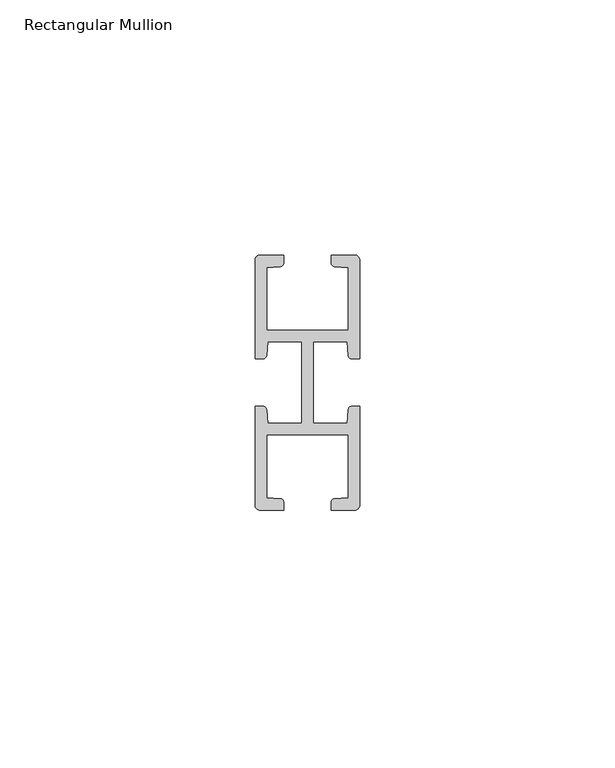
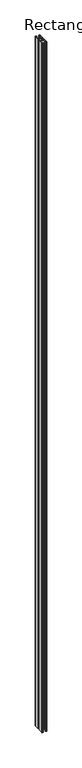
"""IFC4 building model written with IfcOpenShell, lengths in millimetres: member geometry, Rectangular Mullion : RSen_21_CWM_support profile - 21x50 Multi - left_duco projects."""

from ifc_helpers import new_model, si_unit, frame, origin, place, context, project, spatial, circle_curve, source, transform, mapped, element, save
from ifc_brep_helpers import plane_surface, cylinder_surface, advanced_brep


def rectangular_mullion_bf4a34f8(model_context):
    return source(origin(), model_context, "Body", "AdvancedBrep", [
        advanced_brep(
        [(-50.0, -28.65, 0.0), (-51.5472394, -28.65, 0.0), (-52.2455343, -29.3011705, 0.0), (-52.4342548, -32.0, 0.0), (-59.125, -32.0, 0.0), (-59.125, -16.0, 0.0), (-52.4342548, -16.0, 0.0), (-52.2455343, -18.6988295, 0.0), (-51.5472394, -19.35, 0.0), (-50.0, -19.35, 0.0), (-50.0, 0.0, 0.0), (-51.0, 1.0, 0.0), (-55.6, 1.0, 0.0), (-55.6, -0.5472394, 0.0), (-54.9488295, -1.2455343, 0.0), (-52.25, -1.4387205, 0.0), (-52.25, -13.75, 0.0), (-68.25, -13.75, 0.0), (-68.25, -1.4387205, 0.0), (-65.5508597, -1.2499783, 0.0), (-64.9, -0.5472394, 0.0), (-64.9, 1.0, 0.0), (-69.5, 1.0, 0.0), (-70.5, 0.0, 0.0), (-70.5, -19.35, 0.0), (-68.9527606, -19.35, 0.0), (-68.2544657, -18.6988295, 0.0), (-68.0657452, -16.0, 0.0), (-61.375, -16.0, 0.0), (-61.375, -32.0, 0.0), (-68.0657452, -32.0, 0.0), (-68.2544657, -29.3011705, 0.0), (-68.9527606, -28.65, 0.0), (-70.5, -28.65, 0.0), (-70.5, -48.0, 0.0), (-69.5, -49.0, 0.0), (-64.9, -49.0, 0.0), (-64.9, -47.4527606, 0.0), (-65.5511705, -46.7544657, 0.0), (-68.25, -46.5612795, 0.0), (-68.25, -34.25, 0.0), (-52.25, -34.25, 0.0), (-52.25, -46.5612795, 0.0), (-54.9488295, -46.75, 0.0), (-55.6, -47.4527606, 0.0), (-55.6, -49.0, 0.0), (-51.0, -49.0, 0.0), (-50.0, -48.0, 0.0), (-50.0, -28.65, -3000.0), (-50.0, -48.0, -3000.0), (-51.0, -49.0, -3000.0), (-55.6, -49.0, -3000.0), (-55.6, -47.4527606, -3000.0), (-54.9488295, -46.7544657, -3000.0), (-52.25, -46.5612795, -3000.0), (-52.25, -34.25, -3000.0), (-68.25, -34.25, -3000.0), (-68.25, -46.5612795, -3000.0), (-65.5511705, -46.75, -3000.0), (-64.9, -47.4527606, -3000.0), (-64.9, -49.0, -3000.0), (-69.5, -49.0, -3000.0), (-70.5, -48.0, -3000.0), (-70.5, -28.65, -3000.0), (-68.9527606, -28.65, -3000.0), (-68.2544657, -29.3011705, -3000.0), (-68.0657452, -32.0, -3000.0), (-61.375, -32.0, -3000.0), (-61.375, -16.0, -3000.0), (-68.0657452, -16.0, -3000.0), (-68.2544657, -18.6988295, -3000.0), (-68.9527606, -19.35, -3000.0), (-70.5, -19.35, -3000.0), (-70.5, 0.0, -3000.0), (-69.5, 1.0, -3000.0), (-64.9, 1.0, -3000.0), (-64.9, -0.5472394, -3000.0), (-65.5511705, -1.2455343, -3000.0), (-68.25, -1.4387205, -3000.0), (-68.25, -13.75, -3000.0), (-52.25, -13.75, -3000.0), (-52.25, -1.4387205, -3000.0), (-54.9491403, -1.2499783, -3000.0), (-55.6, -0.5472394, -3000.0), (-55.6, 1.0, -3000.0), (-51.0, 1.0, -3000.0), (-50.0, 0.0, -3000.0), (-50.0, -19.35, -3000.0), (-51.5472394, -19.35, -3000.0), (-52.2455343, -18.6988295, -3000.0), (-52.4342548, -16.0, -3000.0), (-59.125, -16.0, -3000.0), (-59.125, -32.0, -3000.0), (-52.4342548, -32.0, -3000.0), (-52.2455343, -29.3011705, -3000.0), (-51.5472394, -28.65, -3000.0)],
        [
            (0, 1),
            (1, 2, circle_curve(frame((-51.5472394, -29.35, 0.0), z_axis=(0.0, 0.0, 1.0), x_axis=(1.0, 0.0, 0.0)), 0.7)),
            (2, 3),
            (3, 4),
            (4, 5),
            (5, 6),
            (6, 7),
            (7, 8, circle_curve(frame((-51.5472394, -18.65, 0.0), z_axis=(0.0, 0.0, 1.0), x_axis=(1.0, 0.0, 0.0)), 0.7)),
            (8, 9),
            (9, 10),
            (10, 11, circle_curve(frame((-51.0, 0.0, 0.0), z_axis=(0.0, 0.0, 1.0), x_axis=(1.0, 0.0, 0.0)), 1.0)),
            (11, 12),
            (12, 13),
            (13, 14, circle_curve(frame((-54.9, -0.5472394, 0.0), z_axis=(0.0, 0.0, 1.0), x_axis=(1.0, 0.0, 0.0)), 0.7)),
            (14, 15),
            (15, 16),
            (16, 17),
            (17, 18),
            (18, 19),
            (19, 20, circle_curve(frame((-65.6, -0.5472394, 0.0), z_axis=(0.0, 0.0, 1.0), x_axis=(1.0, 0.0, 0.0)), 0.7)),
            (20, 21),
            (21, 22),
            (22, 23, circle_curve(frame((-69.5, 0.0, 0.0), z_axis=(0.0, 0.0, 1.0), x_axis=(1.0, 0.0, 0.0)), 1.0)),
            (23, 24),
            (24, 25),
            (25, 26, circle_curve(frame((-68.9527606, -18.65, 0.0), z_axis=(0.0, 0.0, 1.0), x_axis=(1.0, 0.0, 0.0)), 0.7)),
            (26, 27),
            (27, 28),
            (28, 29),
            (29, 30),
            (30, 31),
            (31, 32, circle_curve(frame((-68.9527606, -29.35, 0.0), z_axis=(0.0, 0.0, 1.0), x_axis=(1.0, 0.0, 0.0)), 0.7)),
            (32, 33),
            (33, 34),
            (34, 35, circle_curve(frame((-69.5, -48.0, 0.0), z_axis=(0.0, 0.0, 1.0), x_axis=(1.0, 0.0, 0.0)), 1.0)),
            (35, 36),
            (36, 37),
            (37, 38, circle_curve(frame((-65.6, -47.4527606, 0.0), z_axis=(0.0, 0.0, 1.0), x_axis=(1.0, 0.0, 0.0)), 0.7)),
            (38, 39),
            (39, 40),
            (40, 41),
            (41, 42),
            (42, 43),
            (43, 44, circle_curve(frame((-54.9, -47.4527606, 0.0), z_axis=(0.0, 0.0, 1.0), x_axis=(1.0, 0.0, 0.0)), 0.7)),
            (44, 45),
            (45, 46),
            (46, 47, circle_curve(frame((-51.0, -48.0, 0.0), z_axis=(0.0, 0.0, 1.0), x_axis=(1.0, 0.0, 0.0)), 1.0)),
            (47, 0),
            (48, 49),
            (49, 50, circle_curve(frame((-51.0, -48.0, -3000.0), z_axis=(0.0, 0.0, -1.0), x_axis=(1.0, 0.0, 0.0)), 1.0)),
            (50, 51),
            (51, 52),
            (52, 53, circle_curve(frame((-54.9, -47.4527606, -3000.0), z_axis=(0.0, 0.0, -1.0), x_axis=(1.0, 0.0, 0.0)), 0.7)),
            (53, 54),
            (54, 55),
            (55, 56),
            (56, 57),
            (57, 58),
            (58, 59, circle_curve(frame((-65.6, -47.4527606, -3000.0), z_axis=(0.0, 0.0, -1.0), x_axis=(1.0, 0.0, 0.0)), 0.7)),
            (59, 60),
            (60, 61),
            (61, 62, circle_curve(frame((-69.5, -48.0, -3000.0), z_axis=(0.0, 0.0, -1.0), x_axis=(1.0, 0.0, 0.0)), 1.0)),
            (62, 63),
            (63, 64),
            (64, 65, circle_curve(frame((-68.9527606, -29.35, -3000.0), z_axis=(0.0, 0.0, -1.0), x_axis=(1.0, 0.0, 0.0)), 0.7)),
            (65, 66),
            (66, 67),
            (67, 68),
            (68, 69),
            (69, 70),
            (70, 71, circle_curve(frame((-68.9527606, -18.65, -3000.0), z_axis=(0.0, 0.0, -1.0), x_axis=(1.0, 0.0, 0.0)), 0.7)),
            (71, 72),
            (72, 73),
            (73, 74, circle_curve(frame((-69.5, 0.0, -3000.0), z_axis=(0.0, 0.0, -1.0), x_axis=(1.0, 0.0, 0.0)), 1.0)),
            (74, 75),
            (75, 76),
            (76, 77, circle_curve(frame((-65.6, -0.5472394, -3000.0), z_axis=(0.0, 0.0, -1.0), x_axis=(1.0, 0.0, 0.0)), 0.7)),
            (77, 78),
            (78, 79),
            (79, 80),
            (80, 81),
            (81, 82),
            (82, 83, circle_curve(frame((-54.9, -0.5472394, -3000.0), z_axis=(0.0, 0.0, -1.0), x_axis=(1.0, 0.0, 0.0)), 0.7)),
            (83, 84),
            (84, 85),
            (85, 86, circle_curve(frame((-51.0, 0.0, -3000.0), z_axis=(0.0, 0.0, -1.0), x_axis=(1.0, 0.0, 0.0)), 1.0)),
            (86, 87),
            (87, 88),
            (88, 89, circle_curve(frame((-51.5472394, -18.65, -3000.0), z_axis=(0.0, 0.0, -1.0), x_axis=(1.0, 0.0, 0.0)), 0.7)),
            (89, 90),
            (90, 91),
            (91, 92),
            (92, 93),
            (93, 94),
            (94, 95, circle_curve(frame((-51.5472394, -29.35, -3000.0), z_axis=(0.0, 0.0, -1.0), x_axis=(1.0, 0.0, 0.0)), 0.7)),
            (95, 48),
            (33, 63),
            (62, 34),
            (47, 49),
            (48, 0),
            (95, 1),
            (94, 2),
            (93, 3),
            (92, 4),
            (91, 5),
            (90, 6),
            (89, 7),
            (88, 8),
            (87, 9),
            (86, 10),
            (85, 11),
            (84, 12),
            (83, 13),
            (82, 14),
            (81, 15),
            (80, 16),
            (79, 17),
            (78, 18),
            (77, 19),
            (76, 20),
            (75, 21),
            (74, 22),
            (73, 23),
            (72, 24),
            (71, 25),
            (70, 26),
            (69, 27),
            (68, 28),
            (67, 29),
            (66, 30),
            (65, 31),
            (64, 32),
            (61, 35),
            (60, 36),
            (59, 37),
            (58, 38),
            (57, 39),
            (56, 40),
            (55, 41),
            (54, 42),
            (53, 43),
            (52, 44),
            (51, 45),
            (50, 46),
        ],
        [
            plane_surface(frame((0.0, -85.4483475, 0.0), z_axis=(0.0, 0.0, 1.0), x_axis=(-1.0, 0.0, 0.0))),
            plane_surface(frame((0.0, -85.4483475, -3000.0), z_axis=(0.0, 0.0, -1.0), x_axis=(-1.0, 0.0, 0.0))),
            plane_surface(frame((-70.5, -28.65, 0.0), z_axis=(-1.0, 0.0, 0.0), x_axis=(0.0, 0.0, -1.0))),
            plane_surface(frame((-50.0, -48.0, 0.0), z_axis=(1.0, 0.0, 0.0), x_axis=(0.0, 0.0, -1.0))),
            plane_surface(frame((-50.0, -28.65, 0.0), z_axis=(0.0, 1.0, 0.0), x_axis=(0.0, 0.0, -1.0))),
            cylinder_surface(frame((-51.5472394, -29.35, 0.0), z_axis=(0.0, 0.0, 1.0), x_axis=(1.0, 0.0, 0.0)), 0.7),
            plane_surface(frame((-52.2455343, -29.3011705, 0.0), z_axis=(-0.9975640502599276, 0.06975647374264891, 0.0), x_axis=(0.0, 0.0, -1.0))),
            plane_surface(frame((-52.4342548, -32.0, 0.0), z_axis=(0.0, 1.0, 0.0), x_axis=(0.0, 0.0, -1.0))),
            plane_surface(frame((-59.125, -32.0, 0.0), z_axis=(1.0, 0.0, 0.0), x_axis=(0.0, 0.0, -1.0))),
            plane_surface(frame((-59.125, -16.0, 0.0), z_axis=(0.0, -1.0, 0.0), x_axis=(0.0, 0.0, -1.0))),
            plane_surface(frame((-52.4342548, -16.0, 0.0), z_axis=(-0.9975640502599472, -0.06975647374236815, 0.0), x_axis=(0.0, 0.0, -1.0))),
            cylinder_surface(frame((-51.5472394, -18.65, 0.0), z_axis=(0.0, 0.0, 1.0), x_axis=(1.0, 0.0, 0.0)), 0.7),
            plane_surface(frame((-51.5472394, -19.35, 0.0), z_axis=(0.0, -1.0, 0.0), x_axis=(0.0, 0.0, -1.0))),
            plane_surface(frame((-50.0, -19.35, 0.0), z_axis=(1.0, 0.0, 0.0), x_axis=(0.0, 0.0, -1.0))),
            cylinder_surface(frame((-51.0, 0.0, 0.0), z_axis=(0.0, 0.0, 1.0), x_axis=(1.0, 0.0, 0.0)), 1.0),
            plane_surface(frame((-51.0, 1.0, 0.0), z_axis=(0.0, 1.0, 0.0), x_axis=(0.0, 0.0, -1.0))),
            plane_surface(frame((-55.6, 1.0, 0.0), z_axis=(-1.0, 0.0, 0.0), x_axis=(0.0, 0.0, -1.0))),
            cylinder_surface(frame((-54.9, -0.5472394, 0.0), z_axis=(0.0, 0.0, 1.0), x_axis=(1.0, 0.0, 0.0)), 0.7),
            plane_surface(frame((-54.9491403, -1.2499783, 0.0), z_axis=(-0.0697564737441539, -0.9975640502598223, 0.0), x_axis=(0.0, 0.0, -1.0))),
            plane_surface(frame((-52.25, -1.4387205, 0.0), z_axis=(-1.0, 0.0, 0.0), x_axis=(0.0, 0.0, -1.0))),
            plane_surface(frame((-52.25, -13.75, 0.0), z_axis=(0.0, 1.0, 0.0), x_axis=(0.0, 0.0, -1.0))),
            plane_surface(frame((-68.25, -13.75, 0.0), z_axis=(1.0, 0.0, 0.0), x_axis=(0.0, 0.0, -1.0))),
            plane_surface(frame((-68.25, -1.4387205, 0.0), z_axis=(0.06975647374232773, -0.9975640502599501, 0.0), x_axis=(0.0, 0.0, -1.0))),
            cylinder_surface(frame((-65.6, -0.5472394, 0.0), z_axis=(0.0, 0.0, 1.0), x_axis=(1.0, 0.0, 0.0)), 0.7),
            plane_surface(frame((-64.9, -0.5472394, 0.0), z_axis=(1.0, 0.0, 0.0), x_axis=(0.0, 0.0, -1.0))),
            plane_surface(frame((-64.9, 1.0, 0.0), z_axis=(0.0, 1.0, 0.0), x_axis=(0.0, 0.0, -1.0))),
            cylinder_surface(frame((-69.5, 0.0, 0.0), z_axis=(0.0, 0.0, 1.0), x_axis=(1.0, 0.0, 0.0)), 1.0),
            plane_surface(frame((-70.5, 0.0, 0.0), z_axis=(-1.0, 0.0, 0.0), x_axis=(0.0, 0.0, -1.0))),
            plane_surface(frame((-70.5, -19.35, 0.0), z_axis=(0.0, -1.0, 0.0), x_axis=(0.0, 0.0, -1.0))),
            cylinder_surface(frame((-68.9527606, -18.65, 0.0), z_axis=(0.0, 0.0, 1.0), x_axis=(1.0, 0.0, 0.0)), 0.7),
            plane_surface(frame((-68.2544657, -18.6988295, 0.0), z_axis=(0.9975640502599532, -0.06975647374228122, 0.0), x_axis=(0.0, 0.0, -1.0))),
            plane_surface(frame((-68.0657452, -16.0, 0.0), z_axis=(0.0, -1.0, 0.0), x_axis=(0.0, 0.0, -1.0))),
            plane_surface(frame((-61.375, -16.0, 0.0), z_axis=(-1.0, 0.0, 0.0), x_axis=(0.0, 0.0, -1.0))),
            plane_surface(frame((-61.375, -32.0, 0.0), z_axis=(0.0, 1.0, 0.0), x_axis=(0.0, 0.0, -1.0))),
            plane_surface(frame((-68.0657452, -32.0, 0.0), z_axis=(0.9975640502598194, 0.06975647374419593, 0.0), x_axis=(0.0, 0.0, -1.0))),
            cylinder_surface(frame((-68.9527606, -29.35, 0.0), z_axis=(0.0, 0.0, 1.0), x_axis=(1.0, 0.0, 0.0)), 0.7),
            plane_surface(frame((-68.9527606, -28.65, 0.0), z_axis=(0.0, 1.0, 0.0), x_axis=(0.0, 0.0, -1.0))),
            cylinder_surface(frame((-69.5, -48.0, 0.0), z_axis=(0.0, 0.0, 1.0), x_axis=(1.0, 0.0, 0.0)), 1.0),
            plane_surface(frame((-69.5, -49.0, 0.0), z_axis=(0.0, -1.0, 0.0), x_axis=(0.0, 0.0, -1.0))),
            plane_surface(frame((-64.9, -49.0, 0.0), z_axis=(1.0, 0.0, 0.0), x_axis=(0.0, 0.0, -1.0))),
            cylinder_surface(frame((-65.6, -47.4527606, 0.0), z_axis=(0.0, 0.0, 1.0), x_axis=(1.0, 0.0, 0.0)), 0.7),
            plane_surface(frame((-65.5511705, -46.75, 0.0), z_axis=(0.06975647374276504, 0.9975640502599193, 0.0), x_axis=(0.0, 0.0, -1.0))),
            plane_surface(frame((-68.25, -46.5612795, 0.0), z_axis=(1.0, 0.0, 0.0), x_axis=(0.0, 0.0, -1.0))),
            plane_surface(frame((-68.25, -34.25, 0.0), z_axis=(0.0, -1.0, 0.0), x_axis=(0.0, 0.0, -1.0))),
            plane_surface(frame((-52.25, -34.25, 0.0), z_axis=(-1.0, 0.0, 0.0), x_axis=(0.0, 0.0, -1.0))),
            plane_surface(frame((-52.25, -46.5612795, 0.0), z_axis=(-0.06975647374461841, 0.9975640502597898, 0.0), x_axis=(0.0, 0.0, -1.0))),
            cylinder_surface(frame((-54.9, -47.4527606, 0.0), z_axis=(0.0, 0.0, 1.0), x_axis=(1.0, 0.0, 0.0)), 0.7),
            plane_surface(frame((-55.6, -47.4527606, 0.0), z_axis=(-1.0, 0.0, 0.0), x_axis=(0.0, 0.0, -1.0))),
            plane_surface(frame((-55.6, -49.0, 0.0), z_axis=(0.0, -1.0, 0.0), x_axis=(0.0, 0.0, -1.0))),
            cylinder_surface(frame((-51.0, -48.0, 0.0), z_axis=(0.0, 0.0, 1.0), x_axis=(1.0, 0.0, 0.0)), 1.0),
        ],
        [
            (0, [[1, 2, 3, 4, 5, 6, 7, 8, 9, 10, 11, 12, 13, 14, 15, 16, 17, 18, 19, 20, 21, 22, 23, 24, 25, 26, 27, 28, 29, 30, 31, 32, 33, 34, 35, 36, 37, 38, 39, 40, 41, 42, 43, 44, 45, 46, 47, 48]]),
            (1, [[49, 50, 51, 52, 53, 54, 55, 56, 57, 58, 59, 60, 61, 62, 63, 64, 65, 66, 67, 68, 69, 70, 71, 72, 73, 74, 75, 76, 77, 78, 79, 80, 81, 82, 83, 84, 85, 86, 87, 88, 89, 90, 91, 92, 93, 94, 95, 96]]),
            (2, [[-34, 97, -63, 98]]),
            (3, [[-48, 99, -49, 100]]),
            (4, [[-1, -100, -96, 101]]),
            (5, [[-2, -101, -95, 102]]),
            (6, [[-3, -102, -94, 103]]),
            (7, [[-4, -103, -93, 104]]),
            (8, [[-5, -104, -92, 105]]),
            (9, [[-6, -105, -91, 106]]),
            (10, [[-7, -106, -90, 107]]),
            (11, [[-8, -107, -89, 108]]),
            (12, [[-9, -108, -88, 109]]),
            (13, [[-10, -109, -87, 110]]),
            (14, [[-11, -110, -86, 111]]),
            (15, [[-12, -111, -85, 112]]),
            (16, [[-13, -112, -84, 113]]),
            (17, [[-14, -113, -83, 114]]),
            (18, [[-15, -114, -82, 115]]),
            (19, [[-16, -115, -81, 116]]),
            (20, [[-17, -116, -80, 117]]),
            (21, [[-18, -117, -79, 118]]),
            (22, [[-19, -118, -78, 119]]),
            (23, [[-20, -119, -77, 120]]),
            (24, [[-21, -120, -76, 121]]),
            (25, [[-22, -121, -75, 122]]),
            (26, [[-23, -122, -74, 123]]),
            (27, [[-24, -123, -73, 124]]),
            (28, [[-25, -124, -72, 125]]),
            (29, [[-26, -125, -71, 126]]),
            (30, [[-27, -126, -70, 127]]),
            (31, [[-28, -127, -69, 128]]),
            (32, [[-29, -128, -68, 129]]),
            (33, [[-30, -129, -67, 130]]),
            (34, [[-31, -130, -66, 131]]),
            (35, [[-32, -131, -65, 132]]),
            (36, [[-33, -132, -64, -97]]),
            (37, [[-35, -98, -62, 133]]),
            (38, [[-36, -133, -61, 134]]),
            (39, [[-37, -134, -60, 135]]),
            (40, [[-38, -135, -59, 136]]),
            (41, [[-39, -136, -58, 137]]),
            (42, [[-40, -137, -57, 138]]),
            (43, [[-41, -138, -56, 139]]),
            (44, [[-42, -139, -55, 140]]),
            (45, [[-43, -140, -54, 141]]),
            (46, [[-44, -141, -53, 142]]),
            (47, [[-45, -142, -52, 143]]),
            (48, [[-46, -143, -51, 144]]),
            (49, [[-47, -144, -50, -99]]),
        ],
    ),
    ])


if __name__ == "__main__":
    model = new_model("IFC4")
    model_context = context("Model", 3, world=origin())
    ifc_project = project(units=[si_unit("LENGTHUNIT", "METRE", prefix="MILLI")], contexts=[model_context])
    site = spatial("IfcSite", under=ifc_project)
    building = spatial("IfcBuilding", under=site)
    placement = place(None, origin())
    rectangular_mullion_shape = rectangular_mullion_bf4a34f8(model_context)
    element("IfcMember", 1, ObjectType="Rectangular Mullion : RSen_21_CWM_support profile - 21x50 Multi - left_duco projects", at=placement, inside=building, context=model_context, shape_type="MappedRepresentation", body=[
        mapped(rectangular_mullion_shape, transform((0.0, 0.0, 0.0), x_axis=(1.0, 0.0, 0.0), y_axis=(0.0, 1.0, 0.0), z_axis=(0.0, 0.0, 1.0))),
    ])
    save(model, "model.ifc")
